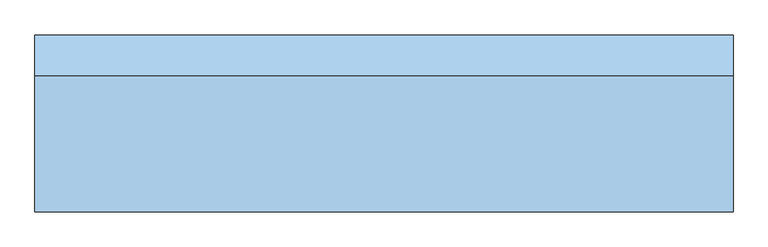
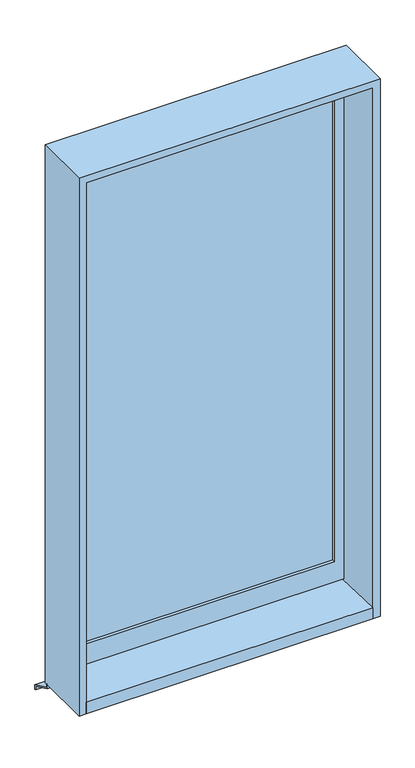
"""IFC4 building model written with IfcOpenShell, lengths in millimetres: window geometry, 380_片開窓_01 : AW1-H2300W1200."""

from ifc_helpers import new_model, si_unit, frame, origin, place, context, project, spatial, polyline, outline, extrude, source, transform, mapped, element, save


def window_808e8724(model_context):
    return source(origin(), model_context, "Body", "SweptSolid", [
        extrude(outline(polyline([(2.5, 835.0), (87.5, 795.0), (87.5, 775.0), (82.5014518, 775.0), (82.5014518, 791.8262891), (-2.5, 831.8269723), (-2.5, 850.0), (2.5, 850.0), (2.5, 835.0)])), frame((-630.0, 0.0, 0.0), z_axis=(1.0, 0.0, 0.0), x_axis=(0.0, 1.0, 0.0)), (0.0, 0.0, 1.0), 1260.0),
        extrude(outline(polyline([(560.0, -10.0), (-560.0, -10.0), (-560.0, -5.0), (560.0, -5.0), (560.0, -10.0)])), frame((0.0, 0.0, 990.0), z_axis=(0.0, 0.0, 1.0), x_axis=(1.0, 0.0, 0.0)), (0.0, 0.0, 1.0), 2170.0),
        extrude(outline(polyline([(3200.0, 600.0), (3200.0, -600.0), (900.0, -600.0), (900.0, 600.0), (3200.0, 600.0)]), holes=[polyline([(3160.0, 560.0), (990.0, 560.0), (990.0, -560.0), (3160.0, -560.0), (3160.0, 560.0)])]), frame((0.0, -22.5, 0.0), z_axis=(0.0, 1.0, 0.0), x_axis=(0.0, 0.0, 1.0)), (0.0, 0.0, 1.0), 30.0),
        extrude(outline(polyline([(-232.5, 850.0), (-232.5, 900.0), (12.5, 890.6666667), (12.5, 850.0), (-232.5, 850.0)])), frame((-600.0, 0.0, 0.0), z_axis=(1.0, 0.0, 0.0), x_axis=(0.0, 1.0, 0.0)), (0.0, 0.0, 1.0), 1200.0),
        extrude(outline(polyline([(850.0, -630.0), (850.0, -600.0), (3200.0, -600.0), (3200.0, 600.0), (850.0, 600.0), (850.0, 630.0), (3230.0, 630.0), (3230.0, -630.0), (850.0, -630.0)])), frame((0.0, -232.5, 0.0), z_axis=(0.0, 1.0, 0.0), x_axis=(0.0, 0.0, 1.0)), (0.0, 0.0, 1.0), 245.0),
    ])


if __name__ == "__main__":
    model = new_model("IFC4")
    model_context = context("Model", 3, world=origin())
    ifc_project = project(units=[si_unit("LENGTHUNIT", "METRE", prefix="MILLI")], contexts=[model_context])
    site = spatial("IfcSite", under=ifc_project)
    building = spatial("IfcBuilding", under=site)
    placement = place(None, origin())
    window_shape = window_808e8724(model_context)
    element("IfcWindow", 1, ObjectType="380_片開窓_01 : AW1-H2300W1200", at=placement, inside=building, context=model_context, shape_type="MappedRepresentation", body=[
        mapped(window_shape, transform((0.0, 0.0, 0.0), x_axis=(1.0, 0.0, 0.0), y_axis=(0.0, 1.0, 0.0), z_axis=(0.0, 0.0, 1.0))),
    ])
    save(model, "model.ifc")
